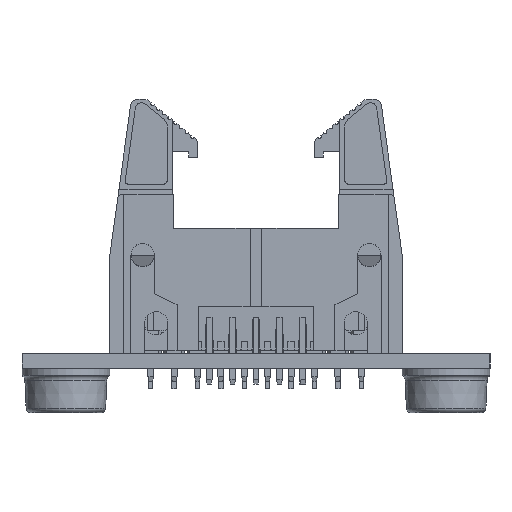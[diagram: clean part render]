
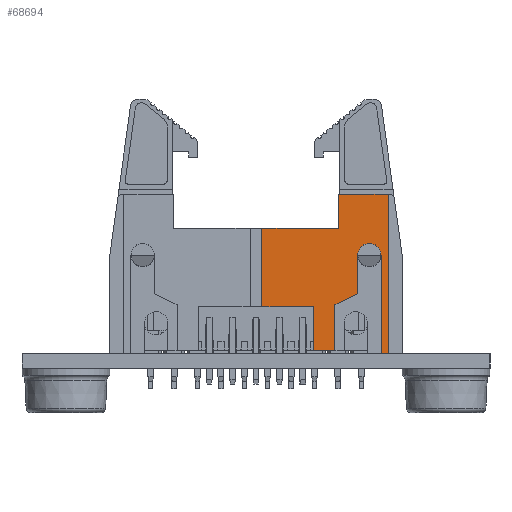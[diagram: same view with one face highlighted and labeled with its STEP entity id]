
A CAD part, left-side view. The second image highlights one B-rep face of the part: STEP entity #68694.
In plain terms, the highlighted planar face has unit normal (-1, 0, 0) as drawn and (0, -1, 0) by its records, which use the part's own axes.
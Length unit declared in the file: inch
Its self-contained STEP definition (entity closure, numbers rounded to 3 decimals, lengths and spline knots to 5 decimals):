
#71 = ORIENTED_EDGE ( 'NONE', *, *, #35180, .F. ) ;
#629 = VERTEX_POINT ( 'NONE', #166371 ) ;
#2525 = CARTESIAN_POINT ( 'NONE',  ( -0.62795, -0.15748, 0. ) ) ;
#3006 = DIRECTION ( 'NONE',  ( 0., 0., 1. ) ) ;
#5895 = DIRECTION ( 'NONE',  ( 0., 0., 1. ) ) ;
#6804 = EDGE_CURVE ( 'NONE', #39304, #67831, #200448, .T. ) ;
#8443 = ORIENTED_EDGE ( 'NONE', *, *, #17892, .F. ) ;
#10105 = EDGE_CURVE ( 'NONE', #28735, #39304, #55621, .T. ) ;
#12257 = CARTESIAN_POINT ( 'NONE',  ( 0., -0.15748, -0.18898 ) ) ;
#14109 = ORIENTED_EDGE ( 'NONE', *, *, #22967, .F. ) ;
#15928 = VECTOR ( 'NONE', #150041, 39.37008 ) ;
#17657 = CARTESIAN_POINT ( 'NONE',  ( -0.43425, -0.15748, -0.40945 ) ) ;
#17892 = EDGE_CURVE ( 'NONE', #629, #34724, #144512, .T. ) ;
#19583 = ORIENTED_EDGE ( 'NONE', *, *, #136587, .F. ) ;
#20705 = VECTOR ( 'NONE', #52401, 39.37008 ) ;
#22094 = VECTOR ( 'NONE', #153004, 39.37008 ) ;
#22674 = EDGE_CURVE ( 'NONE', #210889, #109735, #126907, .T. ) ;
#22967 = EDGE_CURVE ( 'NONE', #141799, #210889, #113632, .T. ) ;
#26177 = CIRCLE ( 'NONE', #130047, 0.05 ) ;
#26629 = ORIENTED_EDGE ( 'NONE', *, *, #175852, .F. ) ;
#28735 = VERTEX_POINT ( 'NONE', #61899 ) ;
#28901 = EDGE_LOOP ( 'NONE', ( #8443, #212566, #19583, #168406, #174190, #89594, #146432, #71, #26629, #151954, #14109, #212176, #148506, #111220 ) ) ;
#31513 = CARTESIAN_POINT ( 'NONE',  ( -0.0252, -0.15748, 0. ) ) ;
#33149 = CARTESIAN_POINT ( 'NONE',  ( -0.53425, -0.15748, 0.01181 ) ) ;
#34724 = VERTEX_POINT ( 'NONE', #70987 ) ;
#35180 = EDGE_CURVE ( 'NONE', #64248, #50587, #160387, .T. ) ;
#39304 = VERTEX_POINT ( 'NONE', #211020 ) ;
#47360 = VECTOR ( 'NONE', #179681, 39.37008 ) ;
#50587 = VERTEX_POINT ( 'NONE', #59696 ) ;
#52401 = DIRECTION ( 'NONE',  ( 0., 0., -1. ) ) ;
#54794 = CARTESIAN_POINT ( 'NONE',  ( -0.35236, -0.15748, 0. ) ) ;
#55621 = LINE ( 'NONE', #68442, #22094 ) ;
#57808 = CARTESIAN_POINT ( 'NONE',  ( -0.0252, -0.15748, -0.18898 ) ) ;
#59462 = DIRECTION ( 'NONE',  ( -1., 0., 0. ) ) ;
#59696 = CARTESIAN_POINT ( 'NONE',  ( -0.43425, -0.15748, -0.24409 ) ) ;
#60482 = DIRECTION ( 'NONE',  ( 0., 0., 1. ) ) ;
#60497 = VERTEX_POINT ( 'NONE', #57808 ) ;
#60894 = CARTESIAN_POINT ( 'NONE',  ( 0., -0.15748, -0.52362 ) ) ;
#61899 = CARTESIAN_POINT ( 'NONE',  ( -0.3374, -0.15748, -0.19685 ) ) ;
#64248 = VERTEX_POINT ( 'NONE', #17657 ) ;
#64833 = DIRECTION ( 'NONE',  ( 0., 0., 1. ) ) ;
#67831 = VERTEX_POINT ( 'NONE', #150454 ) ;
#68442 = CARTESIAN_POINT ( 'NONE',  ( -0.3374, -0.15748, 0. ) ) ;
#68694 = ADVANCED_FACE ( 'NONE', ( #110943 ), #202330, .F. ) ;
#70297 = DIRECTION ( 'NONE',  ( 1., 0., 0. ) ) ;
#70987 = CARTESIAN_POINT ( 'NONE',  ( -0.35236, -0.15748, -0.52362 ) ) ;
#74893 = VECTOR ( 'NONE', #100537, 39.37008 ) ;
#76907 = CARTESIAN_POINT ( 'NONE',  ( -0.24606, -0.15748, 0. ) ) ;
#78824 = AXIS2_PLACEMENT_3D ( 'NONE', #103328, #140207, #5895 ) ;
#78826 = VERTEX_POINT ( 'NONE', #201123 ) ;
#80467 = LINE ( 'NONE', #12257, #168438 ) ;
#89594 = ORIENTED_EDGE ( 'NONE', *, *, #10105, .F. ) ;
#100537 = DIRECTION ( 'NONE',  ( 1., 0., 0. ) ) ;
#101595 = EDGE_CURVE ( 'NONE', #50587, #28735, #110866, .T. ) ;
#103060 = CARTESIAN_POINT ( 'NONE',  ( -0.53425, -0.15748, -0.40945 ) ) ;
#103328 = CARTESIAN_POINT ( 'NONE',  ( 0., -0.15748, 0. ) ) ;
#108368 = VECTOR ( 'NONE', #59462, 39.37008 ) ;
#109735 = VERTEX_POINT ( 'NONE', #103060 ) ;
#110866 = LINE ( 'NONE', #158365, #147236 ) ;
#110943 = FACE_OUTER_BOUND ( 'NONE', #28901, .T. ) ;
#111220 = ORIENTED_EDGE ( 'NONE', *, *, #161602, .F. ) ;
#112542 = CARTESIAN_POINT ( 'NONE',  ( -0.56496, -0.15748, 0. ) ) ;
#113632 = LINE ( 'NONE', #165580, #74893 ) ;
#120635 = CARTESIAN_POINT ( 'NONE',  ( -0.43425, -0.15748, 0. ) ) ;
#126907 = LINE ( 'NONE', #153729, #196800 ) ;
#126958 = LINE ( 'NONE', #168071, #15928 ) ;
#128665 = EDGE_CURVE ( 'NONE', #78826, #67831, #171590, .T. ) ;
#129460 = VERTEX_POINT ( 'NONE', #197234 ) ;
#130047 = AXIS2_PLACEMENT_3D ( 'NONE', #160226, #143662, #60482 ) ;
#130230 = EDGE_CURVE ( 'NONE', #60497, #629, #147618, .T. ) ;
#134976 = VECTOR ( 'NONE', #64833, 39.37008 ) ;
#136587 = EDGE_CURVE ( 'NONE', #78826, #60497, #80467, .T. ) ;
#140207 = DIRECTION ( 'NONE',  ( 0., 1., 0. ) ) ;
#141799 = VERTEX_POINT ( 'NONE', #209034 ) ;
#142092 = LINE ( 'NONE', #54794, #180787 ) ;
#142296 = VERTEX_POINT ( 'NONE', #179093 ) ;
#142332 = DIRECTION ( 'NONE',  ( 1., 0., 0. ) ) ;
#143662 = DIRECTION ( 'NONE',  ( 0., -1., 0. ) ) ;
#144512 = LINE ( 'NONE', #60894, #108368 ) ;
#146432 = ORIENTED_EDGE ( 'NONE', *, *, #101595, .F. ) ;
#147236 = VECTOR ( 'NONE', #191542, 39.37008 ) ;
#147618 = LINE ( 'NONE', #31513, #20705 ) ;
#148506 = ORIENTED_EDGE ( 'NONE', *, *, #176096, .F. ) ;
#150041 = DIRECTION ( 'NONE',  ( -1., 0., 0. ) ) ;
#150454 = CARTESIAN_POINT ( 'NONE',  ( -0.24606, -0.15748, 0. ) ) ;
#151954 = ORIENTED_EDGE ( 'NONE', *, *, #22674, .F. ) ;
#153004 = DIRECTION ( 'NONE',  ( 0., 0., 1. ) ) ;
#153729 = CARTESIAN_POINT ( 'NONE',  ( -0.53425, -0.15748, 0. ) ) ;
#155148 = DIRECTION ( 'NONE',  ( 0., 0., -1. ) ) ;
#156569 = VECTOR ( 'NONE', #70297, 39.37008 ) ;
#158365 = CARTESIAN_POINT ( 'NONE',  ( -0.43425, -0.15748, -0.24409 ) ) ;
#160226 = CARTESIAN_POINT ( 'NONE',  ( -0.48425, -0.15748, -0.40945 ) ) ;
#160387 = LINE ( 'NONE', #120635, #212009 ) ;
#161602 = EDGE_CURVE ( 'NONE', #34724, #142296, #142092, .T. ) ;
#165580 = CARTESIAN_POINT ( 'NONE',  ( 0., -0.15748, 0.01181 ) ) ;
#166371 = CARTESIAN_POINT ( 'NONE',  ( -0.0252, -0.15748, -0.52362 ) ) ;
#168071 = CARTESIAN_POINT ( 'NONE',  ( 0., -0.15748, -0.66969 ) ) ;
#168406 = ORIENTED_EDGE ( 'NONE', *, *, #128665, .T. ) ;
#168438 = VECTOR ( 'NONE', #142332, 39.37008 ) ;
#171590 = LINE ( 'NONE', #76907, #47360 ) ;
#174190 = ORIENTED_EDGE ( 'NONE', *, *, #6804, .F. ) ;
#175852 = EDGE_CURVE ( 'NONE', #109735, #64248, #26177, .T. ) ;
#176096 = EDGE_CURVE ( 'NONE', #142296, #129460, #126958, .T. ) ;
#178863 = LINE ( 'NONE', #112542, #134976 ) ;
#179093 = CARTESIAN_POINT ( 'NONE',  ( -0.35236, -0.15748, -0.66969 ) ) ;
#179681 = DIRECTION ( 'NONE',  ( 0., 0., 1. ) ) ;
#180787 = VECTOR ( 'NONE', #182083, 39.37008 ) ;
#182083 = DIRECTION ( 'NONE',  ( 0., 0., -1. ) ) ;
#191542 = DIRECTION ( 'NONE',  ( 0.899, 0., 0.438 ) ) ;
#193755 = EDGE_CURVE ( 'NONE', #129460, #141799, #178863, .T. ) ;
#196800 = VECTOR ( 'NONE', #155148, 39.37008 ) ;
#197234 = CARTESIAN_POINT ( 'NONE',  ( -0.56496, -0.15748, -0.66969 ) ) ;
#200448 = LINE ( 'NONE', #2525, #156569 ) ;
#201123 = CARTESIAN_POINT ( 'NONE',  ( -0.24606, -0.15748, -0.18898 ) ) ;
#202330 = PLANE ( 'NONE',  #78824 ) ;
#209034 = CARTESIAN_POINT ( 'NONE',  ( -0.56496, -0.15748, 0.01181 ) ) ;
#210889 = VERTEX_POINT ( 'NONE', #33149 ) ;
#211020 = CARTESIAN_POINT ( 'NONE',  ( -0.3374, -0.15748, 0. ) ) ;
#212009 = VECTOR ( 'NONE', #3006, 39.37008 ) ;
#212176 = ORIENTED_EDGE ( 'NONE', *, *, #193755, .F. ) ;
#212566 = ORIENTED_EDGE ( 'NONE', *, *, #130230, .F. ) ;
